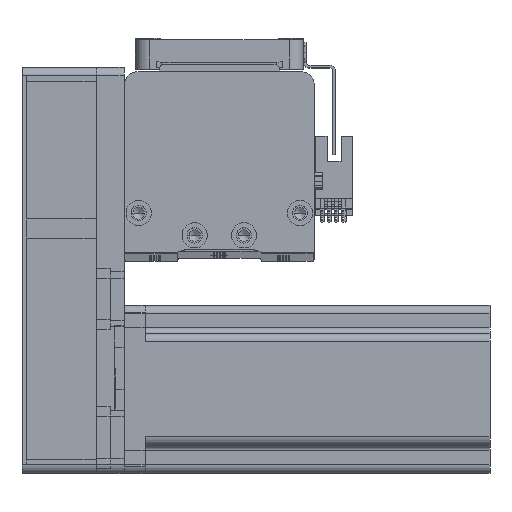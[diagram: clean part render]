
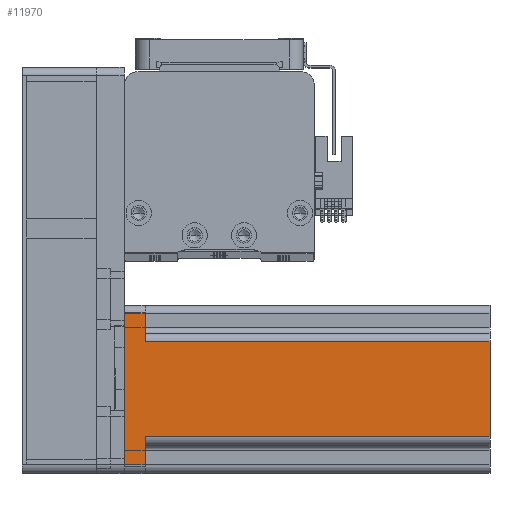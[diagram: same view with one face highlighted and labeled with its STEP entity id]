
A CAD part, top view. The second image highlights one B-rep face of the part: STEP entity #11970.
In plain terms, the highlighted planar face has unit normal (0, 0, 1) as drawn and (0, -1, 0) by its records, which use the part's own axes.
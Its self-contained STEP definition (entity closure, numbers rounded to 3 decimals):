
#54 = VECTOR ( 'NONE', #50116, 1000. ) ;
#395 = CARTESIAN_POINT ( 'NONE',  ( 17., -30., 7.5 ) ) ;
#1827 = VECTOR ( 'NONE', #46768, 1000. ) ;
#1890 = EDGE_CURVE ( 'NONE', #32831, #24946, #11705, .T. ) ;
#3898 = LINE ( 'NONE', #22287, #25656 ) ;
#4700 = CARTESIAN_POINT ( 'NONE',  ( -27., -30., 130.7 ) ) ;
#4712 = VECTOR ( 'NONE', #11325, 1000. ) ;
#5475 = AXIS2_PLACEMENT_3D ( 'NONE', #6161, #34792, #10262 ) ;
#6161 = CARTESIAN_POINT ( 'NONE',  ( 30., -30., 130.7 ) ) ;
#7162 = CARTESIAN_POINT ( 'NONE',  ( 27., -30., 130.7 ) ) ;
#8783 = DIRECTION ( 'NONE',  ( 0., 0., -1. ) ) ;
#9220 = CARTESIAN_POINT ( 'NONE',  ( -27., -30., 0. ) ) ;
#10188 = CARTESIAN_POINT ( 'NONE',  ( 27., -30., 0. ) ) ;
#10262 = DIRECTION ( 'NONE',  ( -1., 0., 0. ) ) ;
#11325 = DIRECTION ( 'NONE',  ( 1., 0., 0. ) ) ;
#11394 = LINE ( 'NONE', #33597, #54 ) ;
#11670 = DIRECTION ( 'NONE',  ( 1., 0., 0. ) ) ;
#11705 = LINE ( 'NONE', #16077, #21304 ) ;
#11970 = ADVANCED_FACE ( 'NONE', ( #12032 ), #38735, .F. ) ;
#12032 = FACE_OUTER_BOUND ( 'NONE', #25130, .T. ) ;
#12679 = LINE ( 'NONE', #42627, #1827 ) ;
#13204 = EDGE_CURVE ( 'NONE', #51768, #36696, #20867, .T. ) ;
#15511 = EDGE_CURVE ( 'NONE', #48797, #24946, #11394, .T. ) ;
#16077 = CARTESIAN_POINT ( 'NONE',  ( -20., -30., 7.5 ) ) ;
#19610 = VECTOR ( 'NONE', #35817, 1000. ) ;
#20034 = VERTEX_POINT ( 'NONE', #48881 ) ;
#20103 = VERTEX_POINT ( 'NONE', #395 ) ;
#20415 = LINE ( 'NONE', #4700, #40893 ) ;
#20867 = LINE ( 'NONE', #7162, #19610 ) ;
#20874 = CARTESIAN_POINT ( 'NONE',  ( -17., -30., 7.5 ) ) ;
#21252 = DIRECTION ( 'NONE',  ( 1., 0., 0. ) ) ;
#21304 = VECTOR ( 'NONE', #11670, 1000. ) ;
#22287 = CARTESIAN_POINT ( 'NONE',  ( 17., -30., 130.7 ) ) ;
#22453 = DIRECTION ( 'NONE',  ( 0., 0., 1. ) ) ;
#23624 = ORIENTED_EDGE ( 'NONE', *, *, #43187, .T. ) ;
#23671 = ORIENTED_EDGE ( 'NONE', *, *, #15511, .T. ) ;
#24170 = CARTESIAN_POINT ( 'NONE',  ( -17., -30., 130.7 ) ) ;
#24946 = VERTEX_POINT ( 'NONE', #20874 ) ;
#25130 = EDGE_LOOP ( 'NONE', ( #35248, #23671, #52486, #38389, #23624, #52433, #48594, #35140 ) ) ;
#25656 = VECTOR ( 'NONE', #22453, 1000. ) ;
#25954 = EDGE_CURVE ( 'NONE', #48797, #20034, #30840, .T. ) ;
#29538 = VECTOR ( 'NONE', #21252, 1000. ) ;
#29733 = EDGE_CURVE ( 'NONE', #20103, #20034, #3898, .T. ) ;
#30840 = LINE ( 'NONE', #41828, #29538 ) ;
#31597 = LINE ( 'NONE', #31702, #4712 ) ;
#31702 = CARTESIAN_POINT ( 'NONE',  ( 30., -30., 0. ) ) ;
#32831 = VERTEX_POINT ( 'NONE', #38448 ) ;
#33597 = CARTESIAN_POINT ( 'NONE',  ( -17., -30., 130.7 ) ) ;
#34792 = DIRECTION ( 'NONE',  ( 0., 1., 0. ) ) ;
#35140 = ORIENTED_EDGE ( 'NONE', *, *, #29733, .T. ) ;
#35248 = ORIENTED_EDGE ( 'NONE', *, *, #25954, .F. ) ;
#35817 = DIRECTION ( 'NONE',  ( 0., 0., 1. ) ) ;
#36577 = EDGE_CURVE ( 'NONE', #36696, #20103, #12679, .T. ) ;
#36696 = VERTEX_POINT ( 'NONE', #39401 ) ;
#38389 = ORIENTED_EDGE ( 'NONE', *, *, #41748, .T. ) ;
#38448 = CARTESIAN_POINT ( 'NONE',  ( -27., -30., 7.5 ) ) ;
#38735 = PLANE ( 'NONE',  #5475 ) ;
#39401 = CARTESIAN_POINT ( 'NONE',  ( 27., -30., 7.5 ) ) ;
#40893 = VECTOR ( 'NONE', #8783, 1000. ) ;
#41748 = EDGE_CURVE ( 'NONE', #32831, #49473, #20415, .T. ) ;
#41828 = CARTESIAN_POINT ( 'NONE',  ( 30., -30., 130.7 ) ) ;
#42627 = CARTESIAN_POINT ( 'NONE',  ( 20., -30., 7.5 ) ) ;
#43187 = EDGE_CURVE ( 'NONE', #49473, #51768, #31597, .T. ) ;
#46768 = DIRECTION ( 'NONE',  ( -1., 0., 0. ) ) ;
#48594 = ORIENTED_EDGE ( 'NONE', *, *, #36577, .T. ) ;
#48797 = VERTEX_POINT ( 'NONE', #24170 ) ;
#48881 = CARTESIAN_POINT ( 'NONE',  ( 17., -30., 130.7 ) ) ;
#49473 = VERTEX_POINT ( 'NONE', #9220 ) ;
#50116 = DIRECTION ( 'NONE',  ( 0., 0., -1. ) ) ;
#51768 = VERTEX_POINT ( 'NONE', #10188 ) ;
#52433 = ORIENTED_EDGE ( 'NONE', *, *, #13204, .T. ) ;
#52486 = ORIENTED_EDGE ( 'NONE', *, *, #1890, .F. ) ;
